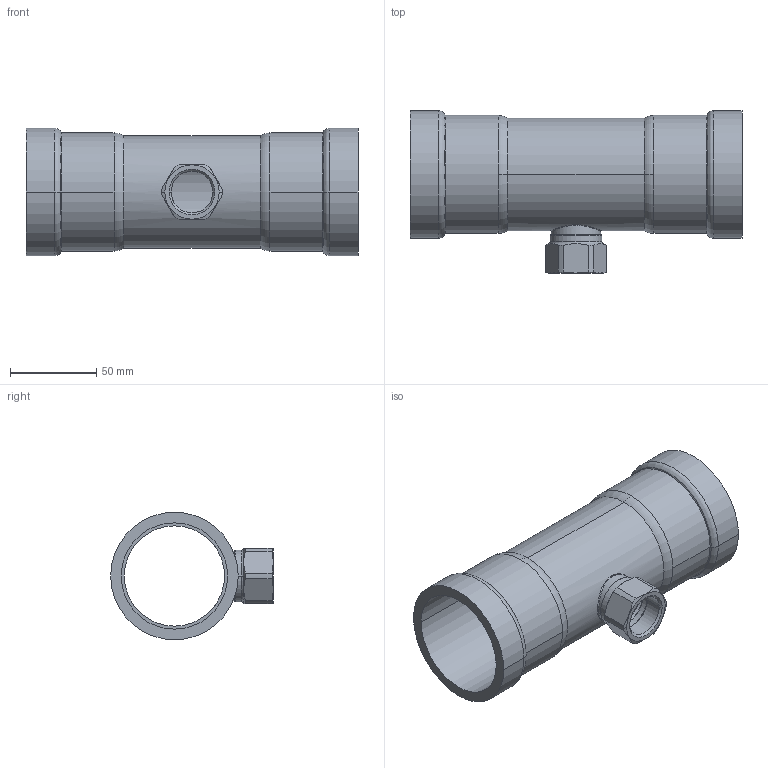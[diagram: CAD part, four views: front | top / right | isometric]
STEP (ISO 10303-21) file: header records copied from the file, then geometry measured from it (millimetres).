
FILE_DESCRIPTION(('Creo Elements/Direct Modeling STEP Export'),'2;1');
FILE_NAME('C9418_2_Rp3-4-2.stp','2020-07-17T 9:36:38',(''),(''),'PTC Creo Elements/Direct Modeling STEP processor for AP214 (Solid Model)','PTC Creo Elements/Direct Modeling 19.0C 15-Aug-2015 (C) Parametric Technology GmbH','');
FILE_SCHEMA(('AUTOMOTIVE_DESIGN { 1 0 10303 214 1 1 1 1 }'));
Length unit declared in the file: millimetre
Products named in the file (2): C9418_2_Rp3-4-2
Assembly tree (1 placements, depth 2):
  C9418_2_Rp3-4-2
    C9418_2_Rp3-4-2
Bounding box: 192.02 x 94.1 x 73.8 mm (x, y, z)
Volume: 162669 mm3; surface area: 85443.8 mm2
Topology: 1 solids, 1 shells, 78 faces, 184 edges, 112 vertices
Faces by surface type: cylinder 32, cone 16, torus 14, plane 12, bspline 4
Entity records: 6394 total; most frequent: CARTESIAN_POINT 4683, ORIENTED_EDGE 368, DIRECTION 328, EDGE_CURVE 184, AXIS2_PLACEMENT_3D 137, VERTEX_POINT 112, EDGE_LOOP 86, FACE_OUTER_BOUND 78
